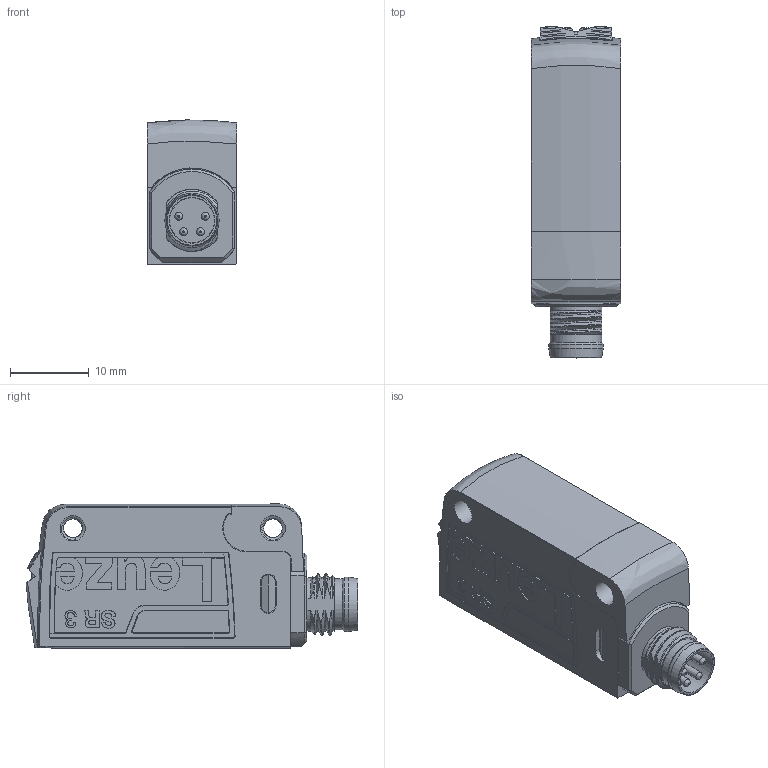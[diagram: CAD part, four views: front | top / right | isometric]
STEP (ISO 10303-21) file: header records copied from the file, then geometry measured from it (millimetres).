
FILE_DESCRIPTION(/* description */ (''),/* implementation_level */ '2;1');
FILE_NAME(/* name */ '3DCAD_BR3C_M8_socket.stp',/* time_stamp */ '2016-02-05T14:48:50+01:00',/* author */ ('CC2'),/* organization */ ('Leuze electronic'),/* preprocessor_version */ 'ST-DEVELOPER v15',/* originating_system */ 'SIEMENS PLM Software NX 8.5',/* authorisation */ '');
FILE_SCHEMA (('AUTOMOTIVE_DESIGN { 1 0 10303 214 3 1 1 1 }'));
Length unit declared in the file: millimetre
Products named in the file (1): 008410_00.0
Bounding box: 11.4 x 42.14 x 18.3 mm (x, y, z)
Surface area: 3403.1 mm2 (no closed solid volume)
Topology: 0 solids, 1 shells, 516 faces, 1367 edges, 873 vertices
Faces by surface type: plane 195, cylinder 139, bspline 66, extrusion 52, torus 33, cone 19, sphere 8, revolution 4
Full cylindrical faces by diameter (mm): 1 x4, 3.2 x4, 4.85 x1, 5.1 x1, 5.8 x1, 6.5 x1, 6.9 x1
Entity records: 25531 total; most frequent: CARTESIAN_POINT 12022, ORIENTED_EDGE 2636, DIRECTION 2264, EDGE_CURVE 1318, VERTEX_POINT 854, AXIS2_PLACEMENT_3D 791, VECTOR 678, LINE 625
